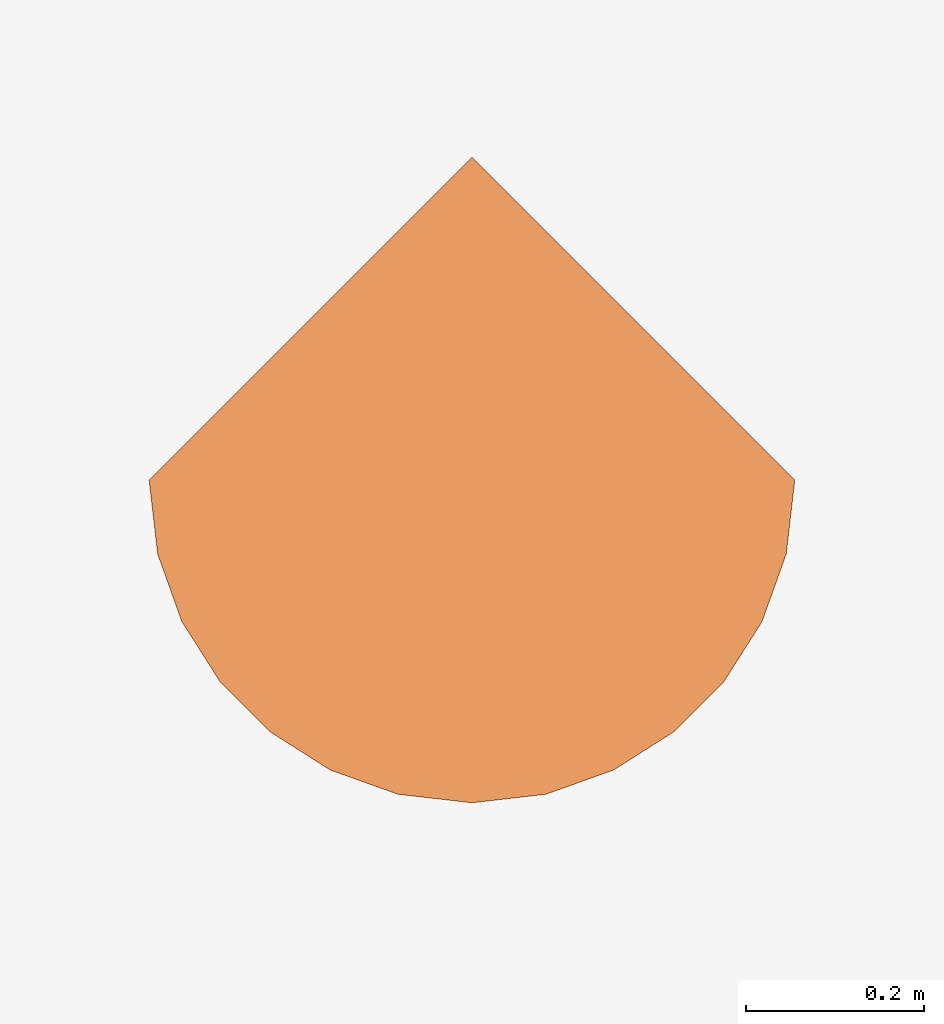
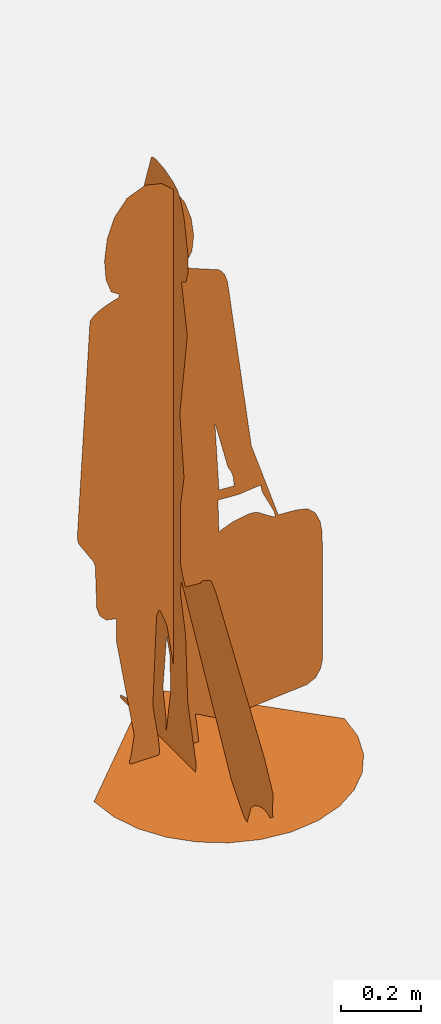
# One storey, part 6 of 6: 1 proxy.
"""IFC2X3 building model written with IfcOpenShell, lengths in millimetres."""

import ifcopenshell
import ifcopenshell.guid

model = None  # the IFC model being written
_history = None  # IfcOwnerHistory: only IFC2X3 demands one
_inside = {}  # id of a spatial element -> (the spatial element, [elements in it])
_under = {}  # id of a project, library or spatial element -> (it, [spatial elements below it])
_declared = {}  # id of a project -> (the project, [libraries it declares])
_typed = {}  # id of a type object -> (the type object, [elements of that type])
_made_of = {}  # id of a material, layer set ... -> (it, [elements and type objects made of it])


def new_model(schema):
    """Start an empty IFC model of exactly this schema.

    Asked for "IFC4X3", IfcOpenShell would pick the latest addendum, in which some entities
    have other attributes; the version numbers below select the first issue.
    IFC2X3 requires an IfcOwnerHistory on every rooted entity: one is made here for all.
    """
    global model, _history
    if schema == "IFC4X3":
        model = ifcopenshell.file(schema_version=(4, 3, 0, 0))
    else:
        model = ifcopenshell.file(schema=schema)
    _inside.clear()
    _under.clear()
    _declared.clear()
    _typed.clear()
    _made_of.clear()
    _history = None
    if model.schema == "IFC2X3":
        org = make("IfcOrganization", Name="unknown")
        user = make(
            "IfcPersonAndOrganization",
            ThePerson=make("IfcPerson", FamilyName="unknown"),
            TheOrganization=org,
        )
        app = make(
            "IfcApplication",
            ApplicationDeveloper=org,
            Version="unknown",
            ApplicationFullName="unknown",
            ApplicationIdentifier="unknown",
        )
        _history = make(
            "IfcOwnerHistory",
            OwningUser=user,
            OwningApplication=app,
            ChangeAction="ADDED",
            CreationDate=0,
        )
    return model


def make(cls, **values):
    """One entity of the class cls with the attributes given. An attribute that is None is left unset."""
    return model.create_entity(
        cls, **{name: value for name, value in values.items() if value is not None}
    )


def entity(cls, *values):
    """Any entity or typed value of the class cls, its attributes in the order of the schema. None: left unset."""
    e = model.create_entity(cls)
    for i, value in enumerate(values):
        if value is not None:
            e[i] = value
    return e


def rooted(cls, **values):
    """An entity with a GlobalId (a new one), such as an element, a storey or a relation."""
    return make(cls, GlobalId=ifcopenshell.guid.new(), OwnerHistory=_history, **values)


def si_unit(unit_type, name, prefix=None):
    """IfcSIUnit, for example si_unit("LENGTHUNIT", "METRE", prefix="MILLI")."""
    return make("IfcSIUnit", UnitType=unit_type, Prefix=prefix, Name=name)


def converted_unit(unit_type, name, factor, base, dimensions=None, offset=None):
    """IfcConversionBasedUnit, such as the inch: factor (a typed value) times the base unit."""
    return make(
        "IfcConversionBasedUnit"
        if offset is None
        else "IfcConversionBasedUnitWithOffset",
        ConversionOffset=offset,
        Dimensions=None
        if dimensions is None
        else entity("IfcDimensionalExponents", *dimensions),
        UnitType=unit_type,
        Name=name,
        ConversionFactor=make(
            "IfcMeasureWithUnit", ValueComponent=factor, UnitComponent=base
        ),
    )


def derived_unit(unit_type, elements):
    """IfcDerivedUnit: a product of units, each with its exponent."""
    return make(
        "IfcDerivedUnit",
        Elements=[
            make("IfcDerivedUnitElement", Unit=unit, Exponent=power)
            for unit, power in elements
        ],
        UnitType=unit_type,
    )


def assignment(units):
    """IfcUnitAssignment: the units of a project."""
    return None if units is None else make("IfcUnitAssignment", Units=units)


def point(xyz):
    """IfcCartesianPoint."""
    return None if xyz is None else make("IfcCartesianPoint", Coordinates=xyz)


def direction(xyz):
    """IfcDirection."""
    return None if xyz is None else make("IfcDirection", DirectionRatios=xyz)


def frame(location, z_axis=None, x_axis=None):
    """IfcAxis2Placement3D, a coordinate frame: its origin and axes. An axis left out is left unset."""
    return make(
        "IfcAxis2Placement3D",
        Location=point(location),
        Axis=direction(z_axis),
        RefDirection=direction(x_axis),
    )


def origin():
    """The frame at (0, 0, 0) with its axes left unset."""
    return frame((0.0, 0.0, 0.0))


def place(relative_to, where):
    """IfcLocalPlacement: puts the frame where relative to a parent placement (None: the world)."""
    return make(
        "IfcLocalPlacement", PlacementRelTo=relative_to, RelativePlacement=where
    )


def context(
    kind, dimensions, precision=None, world=None, true_north=None, identifier=None
):
    """IfcGeometricRepresentationContext, for example the 3D "Model" context."""
    return make(
        "IfcGeometricRepresentationContext",
        ContextIdentifier=identifier,
        ContextType=kind,
        CoordinateSpaceDimension=dimensions,
        Precision=precision,
        WorldCoordinateSystem=world,
        TrueNorth=true_north,
    )


def subcontext(parent, identifier, kind, view, scale=None):
    """IfcGeometricRepresentationSubContext, for example "Body" below "Model"."""
    return make(
        "IfcGeometricRepresentationSubContext",
        ContextIdentifier=identifier,
        ContextType=kind,
        ParentContext=parent,
        TargetScale=scale,
        TargetView=view,
    )


def project(units=None, contexts=None):
    """IfcProject with its units and contexts."""
    return rooted(
        "IfcProject",
        Name="project",
        RepresentationContexts=contexts,
        UnitsInContext=assignment(units),
    )


def spatial(cls, under=None, at=None, **own):
    """A site, building, storey or space (cls), placed at a placement, below another one or the project."""
    s = rooted(cls, ObjectPlacement=at, **own)
    if under is not None:
        _under.setdefault(under.id(), (under, []))[1].append(s)
    return s


def faces_of(points, faces, orient=None, outer=None):
    """IfcFace entities. A face is a list of loops; a loop is a list of indices into points, from 0.

    orient and outer hold one flag for each loop. By default every Orientation is true, the
    first loop of a face is its IfcFaceOuterBound and the others are IfcFaceBound.
    """
    made = []
    for i, loops in enumerate(faces):
        bounds = []
        for j, loop in enumerate(loops):
            is_outer = j == 0 if outer is None else outer[i][j]
            bounds.append(
                make(
                    "IfcFaceOuterBound" if is_outer else "IfcFaceBound",
                    Bound=make("IfcPolyLoop", Polygon=[points[k] for k in loop]),
                    Orientation=True if orient is None else orient[i][j],
                )
            )
        made.append(make("IfcFace", Bounds=bounds))
    return made


def face_set(faces, orient=None, outer=None):
    """The faces of one IfcConnectedFaceSet. surface_model builds it on its shared points."""
    return ("IfcConnectedFaceSet", faces, orient, outer)


def surface_model(cls, points, shells):
    """IfcFaceBasedSurfaceModel or IfcShellBasedSurfaceModel (cls): surfaces that need not close."""
    shared = [point(p) for p in points]
    made = [make(c, CfsFaces=faces_of(shared, fs, o, b)) for c, fs, o, b in shells]
    if cls == "IfcFaceBasedSurfaceModel":
        return make(cls, FbsmFaces=made)
    return make(cls, SbsmBoundary=made)


def shape(context_of_items, identifier, shape_type, items):
    """IfcShapeRepresentation: the items that make up one representation, for example the "Body"."""
    return make(
        "IfcShapeRepresentation",
        ContextOfItems=context_of_items,
        RepresentationIdentifier=identifier,
        RepresentationType=shape_type,
        Items=items,
    )


def source(mapping_origin, context_of_items, identifier, shape_type, items):
    """IfcRepresentationMap: a shape defined once, which mapped items show again and again."""
    return make(
        "IfcRepresentationMap",
        MappingOrigin=mapping_origin,
        MappedRepresentation=shape(context_of_items, identifier, shape_type, items),
    )


def transform(
    local_origin,
    x_axis=None,
    y_axis=None,
    z_axis=None,
    scale=None,
    scale2=None,
    scale3=None,
    uniform=True,
):
    """IfcCartesianTransformationOperator3D, or its non-uniform kind. x_axis, y_axis, z_axis: its Axis1, 2, 3."""
    if uniform:
        return make(
            "IfcCartesianTransformationOperator3D",
            Axis1=direction(x_axis),
            Axis2=direction(y_axis),
            LocalOrigin=point(local_origin),
            Scale=scale,
            Axis3=direction(z_axis),
        )
    return make(
        "IfcCartesianTransformationOperator3DnonUniform",
        Axis1=direction(x_axis),
        Axis2=direction(y_axis),
        LocalOrigin=point(local_origin),
        Scale=scale,
        Axis3=direction(z_axis),
        Scale2=scale2,
        Scale3=scale3,
    )


def mapped(mapping_source, mapping_target):
    """IfcMappedItem: shows the shape of a source again, moved by a transform."""
    return make(
        "IfcMappedItem", MappingSource=mapping_source, MappingTarget=mapping_target
    )


def made_of(thing, what):
    """Note that an element or type object is made of a material, layer set ...; save() writes the relation."""
    if what is not None:
        _made_of.setdefault(what.id(), (what, []))[1].append(thing)
    return thing


def type_object(cls, material=None, **own):
    """A type object (cls), such as IfcWallType, which elements share."""
    return made_of(rooted(cls, **own), material)


def type_shapes(of_type, sources):
    """Give a type object the sources (RepresentationMaps) that its elements show as mapped items."""
    of_type.RepresentationMaps = sources


def element(
    cls,
    number,
    at=None,
    inside=None,
    cuts=None,
    type_object=None,
    material=None,
    context=None,
    identifier="Body",
    shape_type=None,
    held_by="IfcProductDefinitionShape",
    body=None,
    shapes=None,
    **own,
):
    """One element of the class cls, such as IfcWall. Its Tag is "e" and its number.

    at: its placement. inside: the storey or other place that contains it. cuts: it is an
    opening in that element (IfcRelVoidsElement). A single representation is given by context,
    identifier, shape_type and body (its items); several are given by shapes. held_by: the class
    of the entity that holds the representations. save() writes the other relations.
    """
    e = rooted(cls, Tag="e%d" % number, ObjectPlacement=at, **own)
    if body is not None:
        shapes = [shape(context, identifier, shape_type, body)]
    if shapes is not None:
        e.Representation = make(held_by, Representations=shapes)
    if inside is not None:
        _inside.setdefault(inside.id(), (inside, []))[1].append(e)
    if cuts is not None:
        rooted(
            "IfcRelVoidsElement", RelatingBuildingElement=cuts, RelatedOpeningElement=e
        )
    if type_object is not None:
        _typed.setdefault(type_object.id(), (type_object, []))[1].append(e)
    return made_of(e, material)


def aggregate(whole, parts):
    """IfcRelAggregates: a whole, such as a stair, and the parts it consists of."""
    return rooted("IfcRelAggregates", RelatingObject=whole, RelatedObjects=parts)


def save(model, path):
    """Write the relations noted so far, then the file.

    IfcRelAggregates (storeys below a building ...), IfcRelContainedInSpatialStructure (elements
    in a storey), IfcRelDefinesByType, IfcRelAssociatesMaterial and IfcRelDeclares: one each for
    every whole, place, type object, material and project.
    """
    for whole, parts in _under.values():
        aggregate(whole, parts)
    for where, things in _inside.values():
        rooted(
            "IfcRelContainedInSpatialStructure",
            RelatedElements=things,
            RelatingStructure=where,
        )
    for kind, things in _typed.values():
        rooted("IfcRelDefinesByType", RelatedObjects=things, RelatingType=kind)
    for what, things in _made_of.values():
        rooted("IfcRelAssociatesMaterial", RelatedObjects=things, RelatingMaterial=what)
    for by, libraries in _declared.values():
        rooted("IfcRelDeclares", RelatingContext=by, RelatedDefinitions=libraries)
    model.write(path)


model = new_model("IFC2X3")

# Units and contexts
model_context = context("Model", 3, precision=0.01, world=origin(), true_north=direction((6.12303176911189e-17, 1.0)))
body_context = subcontext(model_context, "Body", "Model", "MODEL_VIEW")
ifc_project = project(units=[si_unit("LENGTHUNIT", "METRE", prefix="MILLI"), si_unit("AREAUNIT", "SQUARE_METRE"), si_unit("VOLUMEUNIT", "CUBIC_METRE"), converted_unit("PLANEANGLEUNIT", "DEGREE", entity("IfcRatioMeasure", 0.0174532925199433), si_unit("PLANEANGLEUNIT", "RADIAN"), dimensions=[0, 0, 0, 0, 0, 0, 0]), si_unit("MASSUNIT", "GRAM", prefix="KILO"), derived_unit("MASSDENSITYUNIT", [(si_unit("MASSUNIT", "GRAM", prefix="KILO"), 1), (si_unit("LENGTHUNIT", "METRE"), -3)]), si_unit("TIMEUNIT", "SECOND"), si_unit("FREQUENCYUNIT", "HERTZ"), si_unit("THERMODYNAMICTEMPERATUREUNIT", "DEGREE_CELSIUS"), derived_unit("THERMALTRANSMITTANCEUNIT", [(si_unit("MASSUNIT", "GRAM", prefix="KILO"), 1), (si_unit("THERMODYNAMICTEMPERATUREUNIT", "KELVIN"), -1), (si_unit("TIMEUNIT", "SECOND"), -3)]), derived_unit("VOLUMETRICFLOWRATEUNIT", [(si_unit("LENGTHUNIT", "METRE"), 3), (si_unit("TIMEUNIT", "SECOND"), -1)]), si_unit("ELECTRICCURRENTUNIT", "AMPERE"), si_unit("ELECTRICVOLTAGEUNIT", "VOLT"), si_unit("POWERUNIT", "WATT"), si_unit("FORCEUNIT", "NEWTON", prefix="KILO"), si_unit("ILLUMINANCEUNIT", "LUX"), si_unit("LUMINOUSFLUXUNIT", "LUMEN"), si_unit("LUMINOUSINTENSITYUNIT", "CANDELA"), derived_unit("USERDEFINED", [(si_unit("MASSUNIT", "GRAM", prefix="KILO"), -1), (si_unit("LENGTHUNIT", "METRE"), -2), (si_unit("TIMEUNIT", "SECOND"), 3), (si_unit("LUMINOUSFLUXUNIT", "LUMEN"), 1)]), derived_unit("LINEARVELOCITYUNIT", [(si_unit("LENGTHUNIT", "METRE"), 1), (si_unit("TIMEUNIT", "SECOND"), -1)]), si_unit("PRESSUREUNIT", "PASCAL"), derived_unit("USERDEFINED", [(si_unit("LENGTHUNIT", "METRE"), -2), (si_unit("MASSUNIT", "GRAM", prefix="KILO"), 1), (si_unit("TIMEUNIT", "SECOND"), -2)])], contexts=[model_context])

# Site, building, storey
site_placement = place(None, origin())
site = spatial("IfcSite", under=ifc_project, at=site_placement, Name="表面", CompositionType="ELEMENT")
building_placement = place(site_placement, origin())
building = spatial("IfcBuilding", under=site, at=building_placement, CompositionType="ELEMENT")
storey_placement = place(building_placement, frame((0.0, 0.0, -450.0)))
storey = spatial("IfcBuildingStorey", under=building, at=storey_placement, Name="室外地坪", CompositionType="ELEMENT", Elevation=-449.999999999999)

# Proxy
building_element_proxy_type = type_object("IfcBuildingElementProxyType", Name="Cathy", PredefinedType="NOTDEFINED")
shared_shape = source(origin(), body_context, "Body", "SurfaceModel", [
    surface_model("IfcFaceBasedSurfaceModel", [(53.8898383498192, 117.460335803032, 747.791492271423), (98.2196679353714, 117.460335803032, 744.836149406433), (50.9345318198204, 117.460335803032, 718.23828163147), (-241.642154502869, 117.46034488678, 458.170180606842), (53.8898428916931, 117.46034488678, 617.757423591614), (-14.0824786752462, 117.460399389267, 88.7552837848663), (-4.11522136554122, 117.460417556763, 0.0), (-74.9051435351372, 117.460417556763, 0.0), (-62.2911333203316, 117.460399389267, 156.8197701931), (111.021711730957, 117.46034488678, 714.272244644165), (-117.214974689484, 117.460408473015, 8.06986193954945), (-119.795140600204, 117.460408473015, 0.0), (-201.899540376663, 117.460408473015, 0.0), (-121.113146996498, 117.460399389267, 51.613551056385), (-204.157124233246, 117.460408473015, 3.94978417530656), (-204.944285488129, 117.460408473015, 7.63732736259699), (-204.666213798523, 117.460408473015, 10.9642256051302), (-203.727989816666, 117.460408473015, 13.831844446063), (-202.534912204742, 117.460408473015, 16.1416666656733), (-201.492025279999, 117.460408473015, 17.7951722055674), (-201.004482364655, 117.460408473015, 18.6940715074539), (-190.828977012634, 117.460399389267, 85.6587976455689), (-137.005490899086, 117.460399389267, 156.8197701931), (-242.18269200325, 117.460353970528, 390.492988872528), (-126.197502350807, 117.460353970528, 426.986073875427), (-119.55044260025, 117.460353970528, 442.47001247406), (-115.269399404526, 117.460353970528, 437.478311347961), (-271.563947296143, 117.46034488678, 465.087817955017), (-289.742561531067, 117.46034488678, 483.679197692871), (-298.988999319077, 117.46034488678, 510.701930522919), (-302.872773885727, 117.460317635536, 638.259951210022), (-307.294942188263, 117.460317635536, 654.149388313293), (42.068548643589, 117.460308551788, 957.619164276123), (-350.722741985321, 117.460317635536, 724.605988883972), (-355.144964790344, 117.460317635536, 742.157751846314), (-318.295796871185, 117.460244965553, 1393.25158538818), (-310.256970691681, 117.460244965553, 1402.83297729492), (-299.762571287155, 117.460244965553, 1411.01852416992), (-287.534756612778, 117.460244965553, 1417.96185035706), (-274.295557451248, 117.460244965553, 1423.8161441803), (-260.767277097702, 117.460244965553, 1428.73532066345), (-247.67185549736, 117.460244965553, 1432.87242279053), (-235.731541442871, 117.460244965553, 1436.38092956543), (-96.4066154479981, 117.460372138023, 387.42057466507), (-232.776216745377, 117.460235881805, 1445.24681282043), (95.1081209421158, 117.460317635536, 773.430697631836), (174.731267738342, 117.46034488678, 720.748520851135), (-257.098896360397, 117.460235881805, 1461.55017814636), (-272.135605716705, 117.46021771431, 1503.77274627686), (-211.344821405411, 117.460190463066, 1731.24185600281), (-158.893226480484, 117.460190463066, 1752.6), (-111.979184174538, 117.460208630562, 1741.24604187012), (-73.5043478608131, 117.46021771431, 1707.66160926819), (-247.490961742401, 117.460208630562, 1685.6494354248), (-44.494944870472, 117.46021771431, 1659.43461112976), (-268.735504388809, 117.46021771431, 1625.85293998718), (-25.9771684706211, 117.46021771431, 1604.15164833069), (-276.482433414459, 117.46021771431, 1561.88387947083), (-18.9772346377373, 117.460235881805, 1549.40092048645), (-24.5213525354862, 117.460244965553, 1502.7694644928), (-43.6357222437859, 117.460244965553, 1471.84475326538), (-41.3971642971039, 117.460244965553, 1464.76989440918), (-35.6109395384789, 117.460244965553, 1458.43321723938), (-27.6712374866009, 117.460244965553, 1452.9626209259), (51.2764350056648, 117.460244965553, 1421.29449577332), (57.2815917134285, 117.460244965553, 1416.91365852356), (62.6001669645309, 117.460244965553, 1411.65235176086), (67.2046597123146, 117.460244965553, 1405.33267936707), (71.0676188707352, 117.460244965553, 1397.7771812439), (78.5116503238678, 117.460254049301, 1375.79858093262), (80.4877197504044, 117.460317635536, 806.897913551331), (147.177617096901, 117.460317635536, 850.669805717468), (89.374622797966, 117.460317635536, 791.524578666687), (225.298384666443, 117.46034488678, 611.846810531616), (177.041264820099, 117.46034488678, 704.975501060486), (182.998568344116, 117.46034488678, 688.984616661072), (191.144237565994, 117.46034488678, 672.865251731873), (214.122431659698, 117.46034488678, 624.630477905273), (216.432410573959, 117.46034488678, 608.891467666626), (48.0056181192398, 117.460417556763, 54.0576651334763), (90.3187148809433, 117.460417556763, 47.8453172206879), (308.047367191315, 117.460417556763, 65.1126907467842), (332.627988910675, 117.460417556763, 77.1089652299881), (346.937180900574, 117.460417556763, 99.2247937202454), (353.493394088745, 117.460417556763, 128.462044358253), (352.021681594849, 117.460372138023, 513.797562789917), (345.871947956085, 117.460372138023, 550.265358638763), (332.261768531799, 117.460372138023, 580.58625497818), (309.410801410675, 117.460353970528, 601.309263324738), (275.538813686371, 117.460353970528, 608.98372220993), (138.330310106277, 117.46034488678, 644.403834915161), (157.026443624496, 117.46034488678, 643.755182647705), (169.147306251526, 117.46034488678, 638.44467830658), (93.5172205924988, 117.46034488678, 636.291466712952), (200.593878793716, 117.46034488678, 617.41173248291), (59.3183087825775, 117.46034488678, 623.25897731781), (207.995134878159, 117.46034488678, 613.021811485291), (213.551427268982, 117.46034488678, 610.009931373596), (-77.8998054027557, 130.311477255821, 172.954286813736), (-77.8998054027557, 152.666935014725, 33.5277908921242), (-77.8998054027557, 45.3518647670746, 189.051378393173), (-77.8998326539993, -366.453213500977, 85.8000045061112), (-77.8998326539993, -384.185161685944, 100.576573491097), (-77.8998326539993, -379.315509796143, 104.395208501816), (-77.8997963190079, 55.7880146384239, 386.780679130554), (-77.89978723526, 135.069208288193, 282.819819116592), (-77.89978723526, 150.727672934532, 328.136148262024), (-77.8998144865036, 3.01632092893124, 25.7191991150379), (-77.8998144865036, 6.22818145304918, 0.000114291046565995), (-77.8997781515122, 381.074377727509, 0.000114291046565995), (-77.8997781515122, 381.042366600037, 1.58373100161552), (-77.8997781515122, 381.017150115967, 3.13043153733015), (-77.8997781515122, 381.005813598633, 4.60187180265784), (-77.8997781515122, 381.015624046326, 5.95902092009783), (-77.8997781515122, 381.053557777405, 7.16370529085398), (-77.8997781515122, 381.126881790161, 8.17741010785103), (-77.8997781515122, 381.242608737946, 8.96161800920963), (-77.8997781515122, 376.529051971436, 10.7590157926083), (-77.89978723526, 367.723375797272, 13.3450225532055), (-77.89978723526, 356.534705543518, 16.3091607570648), (-77.89978723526, 344.672602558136, 19.2407246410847), (-77.89978723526, 333.845901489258, 21.7296988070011), (-77.89978723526, 325.764054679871, 23.3657181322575), (-77.89978723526, 322.136187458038, 23.7382494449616), (-77.89978723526, 253.794410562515, 116.461432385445), (-77.8997963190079, 152.964191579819, 69.4067782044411), (-77.89978723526, 242.13225903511, 157.050352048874), (-77.8997963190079, 169.567829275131, 157.097042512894), (-77.89978723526, 237.192280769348, 202.618410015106), (-77.8997781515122, 261.64434928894, 440.345796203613), (-77.8998235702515, -353.755042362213, 92.4425950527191), (-77.8998235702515, -243.088341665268, 6.72225615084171), (-77.8998235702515, -252.488712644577, 5.45225395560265), (-77.8998144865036, -269.943697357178, 56.8931116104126), (-77.8998144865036, -227.993260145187, 18.8921948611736), (-77.8998144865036, -171.770892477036, 87.0856000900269), (-77.8998326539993, -377.468384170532, 114.2298371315), (-77.8997963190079, 80.3276913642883, 494.488566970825), (-77.8997781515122, 264.224569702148, 447.818922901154), (-77.89978723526, 80.519948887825, 517.492213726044), (-77.8997781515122, 269.236236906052, 455.755684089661), (-77.89978723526, 76.8446372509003, 540.919163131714), (-77.8997781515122, 293.466879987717, 480.378418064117), (-77.8998144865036, -279.011839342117, 68.434735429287), (-77.8997690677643, 316.225501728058, 1004.90435943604), (-77.8997781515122, 295.538301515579, 481.812741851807), (-77.8998235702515, -338.757956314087, 94.3743993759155), (-77.8998235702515, -381.824949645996, 165.103530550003), (-77.8998235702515, -291.588851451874, 78.625724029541), (-77.8998235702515, -306.513303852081, 86.7939936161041), (-77.8998235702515, -322.623439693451, 92.2677329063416), (-77.8998235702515, -381.229855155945, 168.548887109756), (-77.8998144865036, -338.470255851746, 250.651233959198), (-77.8997963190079, -81.9905894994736, 622.897662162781), (-77.8997963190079, -71.6508499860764, 630.197434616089), (-77.89978723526, -65.9631884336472, 629.190446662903), (-77.8997690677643, 76.8445827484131, 1454.11298675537), (-77.8997690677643, 53.8794874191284, 1467.40621604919), (-77.8997690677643, 43.4152415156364, 1502.06136817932), (-77.8997963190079, -99.3683078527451, 604.619163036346), (-77.8997963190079, -34.7904999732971, 610.224235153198), (-77.8997963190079, -19.0469807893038, 595.634936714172), (-77.8997963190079, -17.7255782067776, 591.159628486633), (-77.8997963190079, 56.1574279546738, 535.008513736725), (-77.8997963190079, 58.1476771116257, 537.25328950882), (-77.89978723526, 66.8439440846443, 552.463371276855), (-77.89978723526, 72.0572114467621, 563.596739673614), (-77.89978723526, 76.8521040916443, 575.860853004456), (-77.89978723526, 80.482205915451, 588.339851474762), (-77.8997781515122, 82.2011598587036, 600.117766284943), (-77.8997781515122, 81.1851063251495, 771.341580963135), (-77.8997781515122, 63.9151075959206, 863.048991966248), (-77.8997690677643, 84.6023577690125, 1046.83290481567), (-77.8997690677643, 316.974511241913, 1010.7976770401), (-77.8997599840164, 310.776415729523, 1275.7776512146), (-77.8997599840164, 296.325135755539, 1302.30626449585), (-77.8997690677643, 47.4761219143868, 1306.34700622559), (-77.8997599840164, 225.487944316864, 1396.38264427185), (-77.8997599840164, 210.377456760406, 1428.46833114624), (-77.8997509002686, 208.349455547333, 1458.86589431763), (-77.8997690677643, 43.0932317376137, 1550.24171218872), (-77.8997509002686, 224.702781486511, 1486.34415893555), (-77.8997509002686, 63.4412130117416, 1655.83047065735), (-77.8997509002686, 257.119080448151, 1507.3087223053), (-77.8997509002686, 274.126290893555, 1527.27639884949), (-77.8997418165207, 278.916260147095, 1559.83138847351), (-77.8997509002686, 274.573283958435, 1600.16686248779), (-77.8997599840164, 79.3938911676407, 1697.56484184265), (-77.8997509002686, 96.0541751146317, 1721.47660903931), (-77.8997509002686, 113.803346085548, 1732.01608200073), (-77.8997509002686, 158.897768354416, 1746.55254936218), (-77.8997418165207, 202.522049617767, 1750.87394256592), (-77.8997418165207, 227.558239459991, 1743.18851051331), (-77.8997418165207, 218.433487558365, 1748.64399147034), (361.731190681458, 22.4542843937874, 0.00022858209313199), (3.29675648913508e-06, 384.185379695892, 0.000114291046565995), (-361.731081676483, 22.4542548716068, 0.000114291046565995), (352.168147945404, -60.4305455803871, 0.000114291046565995), (-352.168075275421, -60.4305955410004, 0.000114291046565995), (324.932855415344, -136.547025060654, 0.000114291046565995), (-324.932819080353, -136.547079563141, 0.00022858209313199), (-282.205993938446, -203.71436419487, 0.000114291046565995), (282.206193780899, -203.714382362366, 0.000114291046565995), (226.168698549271, -259.751732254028, 0.000114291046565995), (-226.168607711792, -259.751804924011, 0.000114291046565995), (-159.00125041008, -302.478502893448, 0.000114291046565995), (-82.8847754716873, -329.713813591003, 0.000114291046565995), (6.66274327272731e-05, -339.276856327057, 0.000114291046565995), (82.8849208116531, -329.713886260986, 0.000114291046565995), (159.001395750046, -302.478557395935, 0.00022858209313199)], [face_set([[[0, 1, 2]], [[3, 0, 2]], [[3, 2, 4]], [[5, 6, 7]], [[5, 7, 8]], [[9, 2, 1]], [[10, 11, 12]], [[13, 10, 12]], [[13, 12, 14]], [[13, 14, 15]], [[13, 15, 16]], [[13, 16, 17]], [[13, 17, 18]], [[13, 18, 19]], [[13, 19, 20]], [[13, 20, 21]], [[22, 13, 21]], [[22, 21, 23]], [[22, 23, 3]], [[24, 22, 3]], [[25, 24, 3]], [[25, 3, 4]], [[26, 25, 4]], [[0, 3, 27]], [[0, 27, 28]], [[0, 28, 29]], [[0, 29, 30]], [[0, 30, 31]], [[32, 0, 31]], [[32, 31, 33]], [[32, 33, 34]], [[32, 34, 35]], [[32, 35, 36]], [[32, 36, 37]], [[32, 37, 38]], [[32, 38, 39]], [[32, 39, 40]], [[32, 40, 41]], [[32, 41, 42]], [[43, 26, 4]], [[32, 42, 44]], [[9, 1, 45]], [[46, 9, 45]], [[44, 47, 48]], [[49, 50, 51]], [[49, 51, 52]], [[53, 49, 52]], [[53, 52, 54]], [[55, 53, 54]], [[55, 54, 56]], [[57, 55, 56]], [[57, 56, 58]], [[48, 57, 58]], [[44, 48, 58]], [[44, 58, 59]], [[44, 59, 60]], [[32, 44, 60]], [[32, 60, 61]], [[32, 61, 62]], [[32, 62, 63]], [[32, 63, 64]], [[32, 64, 65]], [[32, 65, 66]], [[32, 66, 67]], [[32, 67, 68]], [[32, 68, 69]], [[70, 32, 69]], [[70, 69, 71]], [[72, 70, 71]], [[45, 72, 71]], [[46, 45, 71]], [[46, 71, 73]], [[74, 46, 73]], [[75, 74, 73]], [[76, 75, 73]], [[77, 76, 73]], [[78, 77, 73]], [[8, 43, 4]], [[5, 8, 4]], [[79, 5, 4]], [[80, 79, 4]], [[81, 80, 4]], [[82, 81, 4]], [[83, 82, 4]], [[84, 83, 4]], [[85, 84, 4]], [[86, 85, 4]], [[87, 86, 4]], [[88, 87, 4]], [[78, 73, 89]], [[90, 91, 92]], [[93, 90, 92]], [[93, 92, 94]], [[95, 93, 94]], [[4, 95, 94]], [[4, 94, 96]], [[4, 96, 97]], [[4, 97, 78]], [[88, 4, 78]], [[88, 78, 89]], [[98, 99, 100]], [[101, 102, 103]], [[98, 100, 104]], [[105, 98, 104]], [[106, 105, 104]], [[107, 100, 99]], [[108, 107, 99]], [[109, 108, 99]], [[110, 109, 99]], [[111, 110, 99]], [[112, 111, 99]], [[113, 112, 99]], [[114, 113, 99]], [[115, 114, 99]], [[116, 115, 99]], [[117, 116, 99]], [[118, 117, 99]], [[119, 118, 99]], [[120, 119, 99]], [[121, 120, 99]], [[122, 121, 99]], [[123, 122, 99]], [[124, 123, 99]], [[124, 99, 125]], [[126, 124, 125]], [[126, 125, 127]], [[128, 126, 127]], [[129, 128, 127]], [[129, 127, 106]], [[130, 101, 103]], [[131, 132, 133]], [[134, 131, 133]], [[135, 134, 133]], [[130, 103, 136]], [[129, 106, 104]], [[129, 104, 137]], [[138, 129, 137]], [[138, 137, 139]], [[140, 138, 139]], [[140, 139, 141]], [[142, 140, 141]], [[135, 133, 143]], [[144, 145, 142]], [[144, 142, 141]], [[146, 130, 136]], [[146, 136, 147]], [[135, 143, 148]], [[135, 148, 149]], [[141, 135, 149]], [[141, 149, 150]], [[141, 150, 146]], [[141, 146, 147]], [[141, 147, 151]], [[141, 151, 152]], [[153, 154, 155]], [[156, 157, 158]], [[159, 153, 155]], [[159, 155, 160]], [[159, 160, 161]], [[159, 161, 162]], [[159, 162, 163]], [[152, 159, 163]], [[141, 152, 163]], [[141, 163, 164]], [[141, 164, 165]], [[144, 141, 165]], [[144, 165, 166]], [[144, 166, 167]], [[144, 167, 168]], [[144, 168, 169]], [[144, 169, 170]], [[144, 170, 171]], [[144, 171, 172]], [[173, 144, 172]], [[174, 173, 172]], [[175, 174, 172]], [[175, 172, 176]], [[177, 175, 176]], [[178, 177, 176]], [[179, 178, 176]], [[179, 176, 156]], [[179, 156, 158]], [[179, 158, 180]], [[181, 179, 180]], [[181, 180, 182]], [[183, 181, 182]], [[184, 183, 182]], [[185, 184, 182]], [[186, 185, 182]], [[186, 182, 187]], [[186, 187, 188]], [[186, 188, 189]], [[186, 189, 190]], [[186, 190, 191]], [[192, 186, 191]], [[192, 191, 193]], [[194, 195, 196]], [[197, 194, 196]], [[197, 196, 198]], [[199, 197, 198]], [[199, 198, 200]], [[199, 200, 201]], [[202, 199, 201]], [[203, 202, 201]], [[203, 201, 204]], [[203, 204, 205]], [[203, 205, 206]], [[203, 206, 207]], [[203, 207, 208]], [[203, 208, 209]]])]),
])
type_shapes(building_element_proxy_type, [shared_shape])
proxy_placement = place(storey_placement, frame((-30361.4690605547, -31627.8459129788, 100.0)))
element("IfcBuildingElementProxy", 1, at=proxy_placement, inside=storey, type_object=building_element_proxy_type, Name="RPC 女性:Cathy", ObjectType="Cathy", context=body_context, shape_type="MappedRepresentation", body=[
    mapped(shared_shape, transform((0.0, 0.0, 0.0), scale=1.0)),
])

save(model, "model.ifc")
